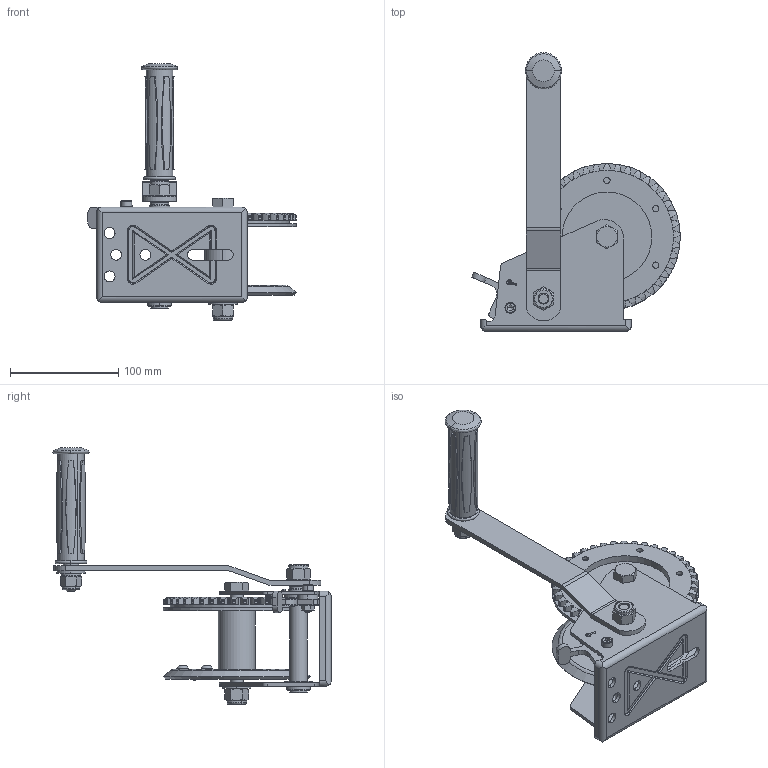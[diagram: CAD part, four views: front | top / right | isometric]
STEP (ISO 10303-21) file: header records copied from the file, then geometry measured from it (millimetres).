
FILE_DESCRIPTION( (''), '2;1');
FILE_NAME ('PM-100.stp','2023-04-19T11:44:49',(''),(''),'spGate 19.8.2 (****-****-****-****)','','');
FILE_SCHEMA (('AUTOMOTIVE_DESIGN'));
Length unit declared in the file: millimetre
Products named in the file (3): Assembly; PM-100-prt0; PM-100-prt1
Assembly tree (2 placements, depth 2):
  Assembly
    PM-100-prt0
    PM-100-prt1
Bounding box: 192.56 x 256.71 x 236.35 mm (x, y, z)
Volume: 468795.3 mm3; surface area: 188458.5 mm2
Topology: 2 solids, 2 shells, 1026 faces, 2760 edges, 1773 vertices
Faces by surface type: cylinder 606, plane 253, bspline 157, sphere 10
Entity records: 57238 total; most frequent: CARTESIAN_POINT 10892, ORIENTED_EDGE 5512, DIRECTION 5067, COLOUR_RGB 3784, PRESENTATION_STYLE_ASSIGNMENT 3784, STYLED_ITEM 3784, EDGE_CURVE 2756, DRAUGHTING_PRE_DEFINED_CURVE_FONT 2756
